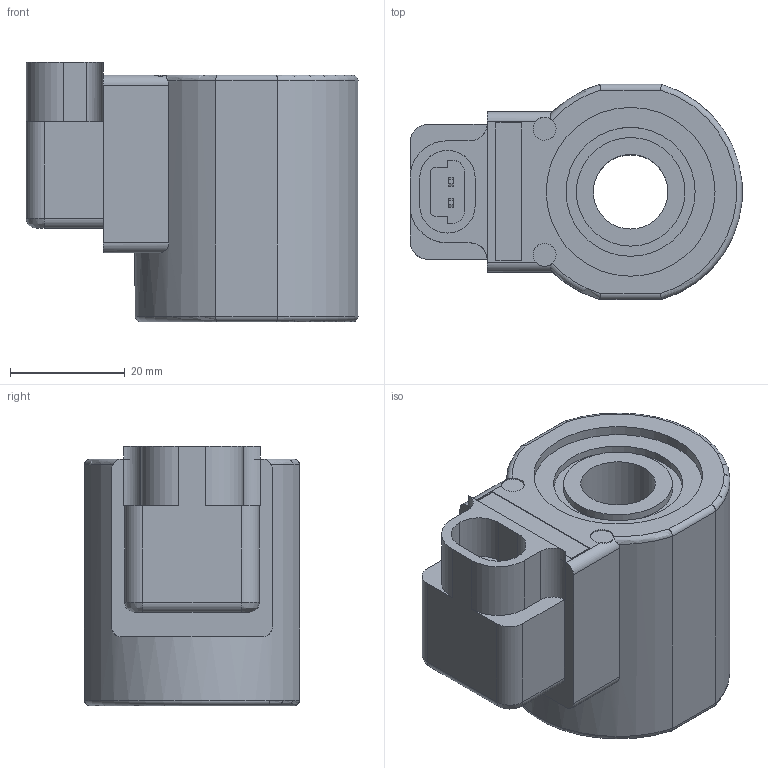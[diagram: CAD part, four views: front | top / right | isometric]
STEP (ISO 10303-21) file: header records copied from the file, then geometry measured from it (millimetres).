
FILE_DESCRIPTION((''),'2;1');
FILE_NAME('Q:\Delta CADD Insertion Codes\3D Solid models\Coils\STEP\PIM.stp','2012-06-04T10:07:09',('Dan'),(''),'Autodesk Inventor 2012','Autodesk Inventor 2012','');
FILE_SCHEMA(('AUTOMOTIVE_DESIGN { 1 0 10303 214 1 1 1 1 }'));
Length unit declared in the file: inch
Products named in the file (1): Part32
Bounding box: 57.9 x 37.5 x 45.26 mm (x, y, z)
Volume: 56048 mm3; surface area: 12604.4 mm2
Topology: 1 solids, 1 shells, 104 faces, 259 edges, 168 vertices
Faces by surface type: plane 61, cylinder 36, torus 5, bspline 2
Full cylindrical faces by diameter (mm): 4 x2, 13.005 x1, 18.948 x2, 22.504 x2, 29.439 x1, 29.997 x1
Entity records: 3275 total; most frequent: CARTESIAN_POINT 801, DIRECTION 505, ORIENTED_EDGE 492, EDGE_CURVE 246, AXIS2_PLACEMENT_3D 174, VERTEX_POINT 164, VECTOR 157, LINE 157
